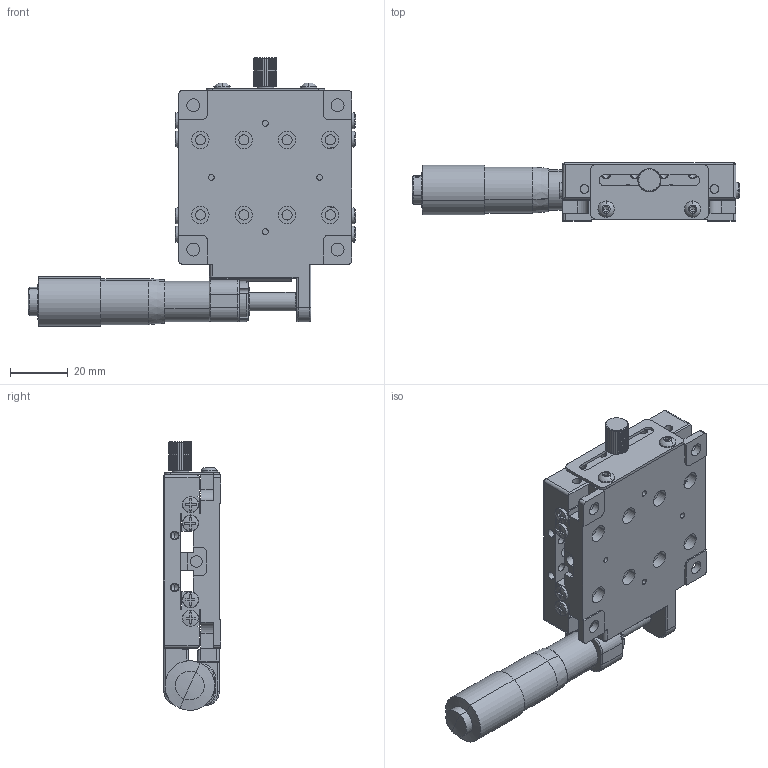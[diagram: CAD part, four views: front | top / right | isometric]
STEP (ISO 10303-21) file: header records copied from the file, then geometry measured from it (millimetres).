
FILE_DESCRIPTION (( 'STEP AP203' ), '1' );
FILE_NAME ('M-TSSJ60Z-10-BR.STEP', '2019-11-13T02:43:07', ( '¦K¬P' ), ( '' ), 'SwSTEP 2.0', 'SolidWorks 2019', '' );
FILE_SCHEMA (( 'CONFIG_CONTROL_DESIGN' ));
Length unit declared in the file: millimetre
Products named in the file (1): M-TSSJ60Z-10-BR
Bounding box: 113.46 x 20 x 93.08 mm (x, y, z)
Volume: 74767.7 mm3; surface area: 37842.9 mm2
Topology: 7 solids, 20 shells, 1222 faces, 3038 edges, 1869 vertices
Faces by surface type: plane 561, cylinder 437, cone 164, torus 36, bspline 16, sphere 8
Entity records: 36307 total; most frequent: CARTESIAN_POINT 7242, DIRECTION 6208, ORIENTED_EDGE 5880, EDGE_CURVE 2940, AXIS2_PLACEMENT_3D 2317, VERTEX_POINT 1869, LINE 1574, VECTOR 1574
